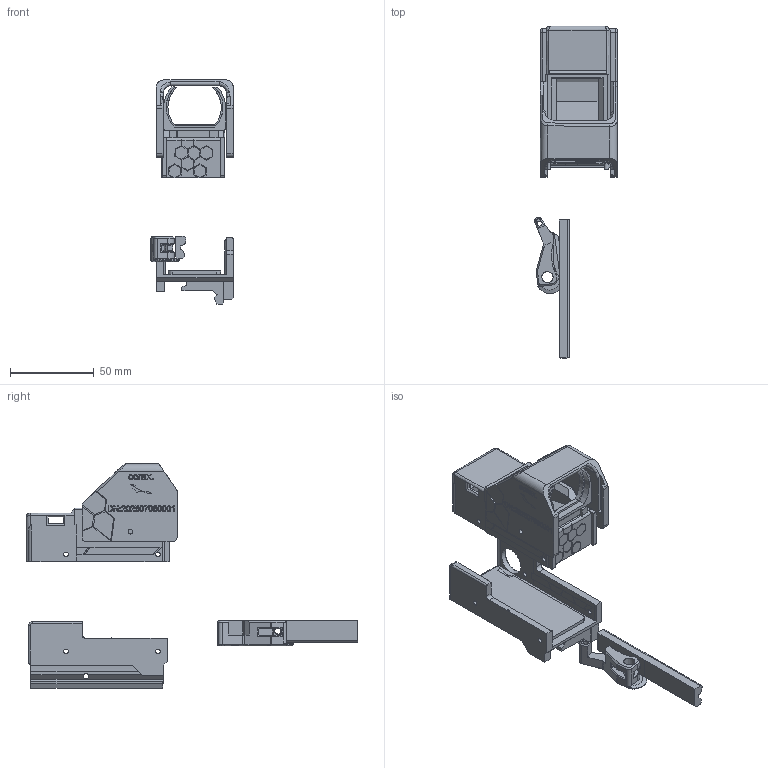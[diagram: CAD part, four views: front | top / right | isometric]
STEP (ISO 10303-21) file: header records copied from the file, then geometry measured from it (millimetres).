
FILE_DESCRIPTION(/* description */ (''),/* implementation_level */ '2;1');
FILE_NAME(/* name */ 'C:/Users/daixi/Desktop/s-n-9.stp',/* time_stamp */ '2025-07-08T23:10:47+08:00',/* author */ (''),/* organization */ (''),/* preprocessor_version */ 'ST-DEVELOPER v15.2',/* originating_system */ 'Autodesk Translator Framework v2.0.0.5431',/* authorisation */ '');
FILE_SCHEMA (('AUTOMOTIVE_DESIGN { 1 0 10303 214 3 1 1 }'));
Length unit declared in the file: centimetre
Products named in the file (1): sn-5-sort
Bounding box: 49.57 x 198.69 x 134.3 mm (x, y, z)
Volume: 106369.3 mm3; surface area: 58823.4 mm2
Topology: 6 solids, 7 shells, 1189 faces, 3303 edges, 2163 vertices
Faces by surface type: plane 721, bspline 334, cylinder 112, cone 20, torus 2
Full cylindrical faces by diameter (mm): 0.549 x1, 2.8 x16, 3 x1, 3.2 x1, 3.6 x2, 4 x1, 6 x2, 6.7 x1, 7 x1, 16.4 x1
Entity records: 41781 total; most frequent: CARTESIAN_POINT 13538, ORIENTED_EDGE 6536, DIRECTION 4544, EDGE_CURVE 3263, LINE 2300, VECTOR 2300, VERTEX_POINT 2155, EDGE_LOOP 1313
